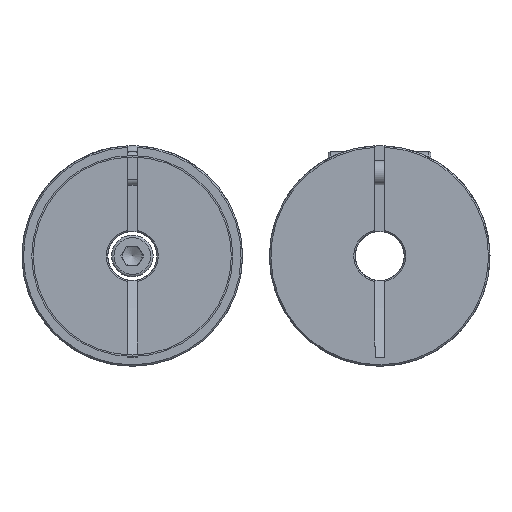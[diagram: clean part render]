
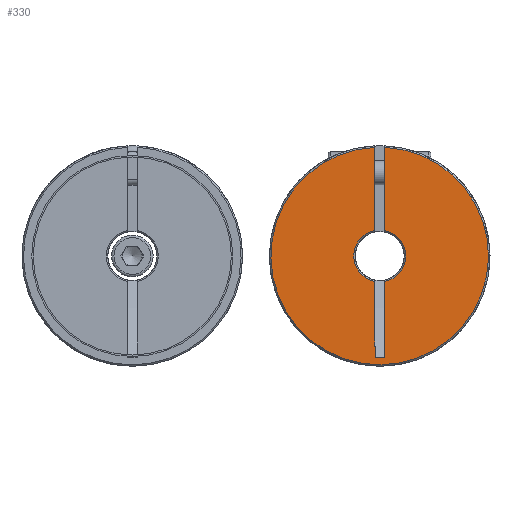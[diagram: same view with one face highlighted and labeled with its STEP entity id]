
A CAD part, left-side view. The second image highlights one B-rep face of the part: STEP entity #330.
In plain terms, the highlighted planar face has unit normal (-1, 0, 0).
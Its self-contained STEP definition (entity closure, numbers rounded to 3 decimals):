
#330 = ADVANCED_FACE( 'NONE', ( #588 ), #589, .F. );
#588 = FACE_OUTER_BOUND( '', #1377, .T. );
#589 = PLANE( '', #1378 );
#1377 = EDGE_LOOP( '', ( #1745, #1746, #1747, #1748, #1749, #1750, #1751, #1752 ) );
#1378 = AXIS2_PLACEMENT_3D( '', #1753, #1754, #1755 );
#1745 = ORIENTED_EDGE( '', *, *, #2333, .T. );
#1746 = ORIENTED_EDGE( '', *, *, #2334, .T. );
#1747 = ORIENTED_EDGE( '', *, *, #2335, .T. );
#1748 = ORIENTED_EDGE( '', *, *, #2336, .T. );
#1749 = ORIENTED_EDGE( '', *, *, #2337, .F. );
#1750 = ORIENTED_EDGE( '', *, *, #2338, .T. );
#1751 = ORIENTED_EDGE( '', *, *, #2339, .F. );
#1752 = ORIENTED_EDGE( '', *, *, #2340, .F. );
#1753 = CARTESIAN_POINT( '', ( 0., 5., 0. ) );
#1754 = DIRECTION( '', ( 1., 0., 0. ) );
#1755 = DIRECTION( '', ( 0., 1., 0. ) );
#2333 = EDGE_CURVE( 'NONE', #2536, #2537, #2538, .T. );
#2334 = EDGE_CURVE( 'NONE', #2537, #2539, #2540, .T. );
#2335 = EDGE_CURVE( 'NONE', #2539, #2541, #2542, .T. );
#2336 = EDGE_CURVE( 'NONE', #2541, #2543, #2544, .F. );
#2337 = EDGE_CURVE( 'NONE', #2545, #2543, #2546, .F. );
#2338 = EDGE_CURVE( 'NONE', #2545, #2547, #2548, .T. );
#2339 = EDGE_CURVE( 'NONE', #2549, #2547, #2550, .F. );
#2340 = EDGE_CURVE( 'NONE', #2536, #2549, #2551, .T. );
#2536 = VERTEX_POINT( 'NONE', #2928 );
#2537 = VERTEX_POINT( 'NONE', #2929 );
#2538 = LINE( '', #2930, #2931 );
#2539 = VERTEX_POINT( 'NONE', #2932 );
#2540 = CIRCLE( '', #2933, 5.3 );
#2541 = VERTEX_POINT( 'NONE', #2934 );
#2542 = LINE( '', #2935, #2936 );
#2543 = VERTEX_POINT( 'NONE', #2937 );
#2544 = CIRCLE( '', #2938, 22.2 );
#2545 = VERTEX_POINT( 'NONE', #2939 );
#2546 = LINE( '', #2940, #2941 );
#2547 = VERTEX_POINT( 'NONE', #2942 );
#2548 = CIRCLE( '', #2943, 5.3 );
#2549 = VERTEX_POINT( 'NONE', #2944 );
#2550 = LINE( '', #2945, #2946 );
#2551 = LINE( '', #2947, #2948 );
#2928 = CARTESIAN_POINT( '', ( 0., 1., -20.63 ) );
#2929 = CARTESIAN_POINT( '', ( 0., 1., -5.205 ) );
#2930 = CARTESIAN_POINT( '', ( 0., 1., 0. ) );
#2931 = VECTOR( '', #3164, 1000. );
#2932 = CARTESIAN_POINT( '', ( 0., 1., 5.205 ) );
#2933 = AXIS2_PLACEMENT_3D( '', #3165, #3166, #3167 );
#2934 = CARTESIAN_POINT( '', ( 0., 1., 22.177 ) );
#2935 = CARTESIAN_POINT( '', ( 0., 1., 0. ) );
#2936 = VECTOR( '', #3168, 1000. );
#2937 = CARTESIAN_POINT( '', ( 0., -1., 22.177 ) );
#2938 = AXIS2_PLACEMENT_3D( '', #3169, #3170, #3171 );
#2939 = CARTESIAN_POINT( '', ( 0., -1., 5.205 ) );
#2940 = CARTESIAN_POINT( '', ( 0., -1., 13. ) );
#2941 = VECTOR( '', #3172, 1000. );
#2942 = CARTESIAN_POINT( '', ( 0., -1., -5.205 ) );
#2943 = AXIS2_PLACEMENT_3D( '', #3173, #3174, #3175 );
#2944 = CARTESIAN_POINT( '', ( 0., -1., -20.63 ) );
#2945 = CARTESIAN_POINT( '', ( 0., -1., 13. ) );
#2946 = VECTOR( '', #3176, 1000. );
#2947 = CARTESIAN_POINT( '', ( 0., 1., -20.63 ) );
#2948 = VECTOR( '', #3177, 1000. );
#3164 = DIRECTION( '', ( 0., 0., 1. ) );
#3165 = CARTESIAN_POINT( '', ( 0., 0., 0. ) );
#3166 = DIRECTION( '', ( 1., 0., 0. ) );
#3167 = DIRECTION( '', ( 0., 0., -1. ) );
#3168 = DIRECTION( '', ( 0., 0., 1. ) );
#3169 = CARTESIAN_POINT( '', ( 0., 0., 0. ) );
#3170 = DIRECTION( '', ( 1., 0., 0. ) );
#3171 = DIRECTION( '', ( 0., 0., -1. ) );
#3172 = DIRECTION( '', ( 0., 0., -1. ) );
#3173 = CARTESIAN_POINT( '', ( 0., 0., 0. ) );
#3174 = DIRECTION( '', ( 1., 0., 0. ) );
#3175 = DIRECTION( '', ( 0., 0., -1. ) );
#3176 = DIRECTION( '', ( 0., 0., -1. ) );
#3177 = DIRECTION( '', ( 0., -1., 0. ) );
